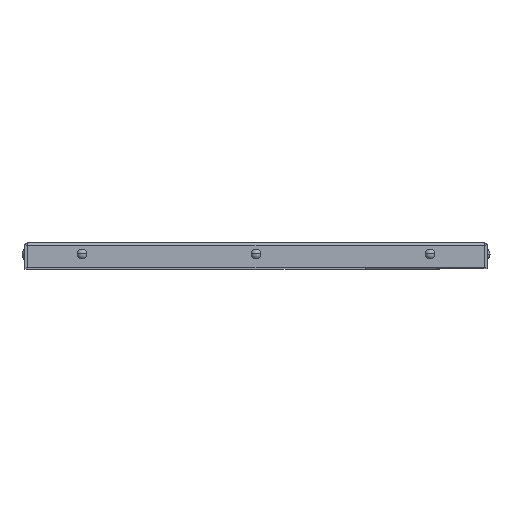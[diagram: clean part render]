
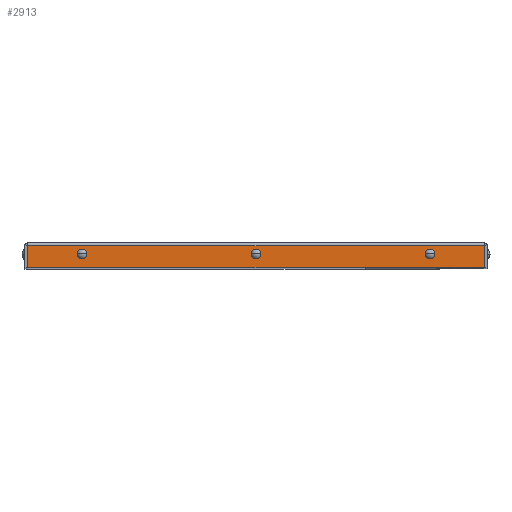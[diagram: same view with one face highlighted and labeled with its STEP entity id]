
A CAD part, top view. The second image highlights one B-rep face of the part: STEP entity #2913.
In plain terms, the highlighted planar face has unit normal (0, 0, 1).
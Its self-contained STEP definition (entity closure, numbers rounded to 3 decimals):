
#712=DIRECTION('',(0.,-1.,0.));
#713=VECTOR('',#712,1.6);
#714=CARTESIAN_POINT('',(0.,-0.2,-2.05));
#715=LINE('',#714,#713);
#716=DIRECTION('',(-1.,0.,0.));
#717=VECTOR('',#716,32.82);
#718=CARTESIAN_POINT('',(32.82,-0.2,-2.05));
#719=LINE('',#718,#717);
#720=DIRECTION('',(0.,1.,0.));
#721=VECTOR('',#720,1.6);
#722=CARTESIAN_POINT('',(32.82,-1.8,-2.05));
#723=LINE('',#722,#721);
#724=DIRECTION('',(1.,0.,0.));
#725=VECTOR('',#724,32.82);
#726=CARTESIAN_POINT('',(0.,-1.8,-2.05));
#727=LINE('',#726,#725);
#728=CARTESIAN_POINT('',(28.91,-0.8,-2.05));
#729=DIRECTION('',(0.,0.,-1.));
#730=DIRECTION('',(-1.,0.,0.));
#731=AXIS2_PLACEMENT_3D('',#728,#729,#730);
#733=CARTESIAN_POINT('',(28.91,-0.8,-2.05));
#734=DIRECTION('',(0.,0.,-1.));
#735=DIRECTION('',(1.,0.,0.));
#736=AXIS2_PLACEMENT_3D('',#733,#734,#735);
#738=CARTESIAN_POINT('',(16.41,-0.8,-2.05));
#739=DIRECTION('',(0.,0.,-1.));
#740=DIRECTION('',(-1.,0.,0.));
#741=AXIS2_PLACEMENT_3D('',#738,#739,#740);
#743=CARTESIAN_POINT('',(16.41,-0.8,-2.05));
#744=DIRECTION('',(0.,0.,-1.));
#745=DIRECTION('',(1.,0.,0.));
#746=AXIS2_PLACEMENT_3D('',#743,#744,#745);
#748=CARTESIAN_POINT('',(3.91,-0.8,-2.05));
#749=DIRECTION('',(0.,0.,-1.));
#750=DIRECTION('',(-1.,0.,0.));
#751=AXIS2_PLACEMENT_3D('',#748,#749,#750);
#753=CARTESIAN_POINT('',(3.91,-0.8,-2.05));
#754=DIRECTION('',(0.,0.,-1.));
#755=DIRECTION('',(1.,0.,0.));
#756=AXIS2_PLACEMENT_3D('',#753,#754,#755);
#1630=CARTESIAN_POINT('',(0.,-0.2,-2.05));
#1631=CARTESIAN_POINT('',(0.,-1.8,-2.05));
#1632=VERTEX_POINT('',#1630);
#1633=VERTEX_POINT('',#1631);
#1634=CARTESIAN_POINT('',(32.82,-1.8,-2.05));
#1635=VERTEX_POINT('',#1634);
#1636=CARTESIAN_POINT('',(32.82,-0.2,-2.05));
#1637=VERTEX_POINT('',#1636);
#1742=CARTESIAN_POINT('',(28.564,-0.8,-2.05));
#1743=CARTESIAN_POINT('',(29.256,-0.8,-2.05));
#1744=VERTEX_POINT('',#1742);
#1745=VERTEX_POINT('',#1743);
#1754=CARTESIAN_POINT('',(16.064,-0.8,-2.05));
#1755=CARTESIAN_POINT('',(16.756,-0.8,-2.05));
#1756=VERTEX_POINT('',#1754);
#1757=VERTEX_POINT('',#1755);
#1766=CARTESIAN_POINT('',(3.564,-0.8,-2.05));
#1767=CARTESIAN_POINT('',(4.256,-0.8,-2.05));
#1768=VERTEX_POINT('',#1766);
#1769=VERTEX_POINT('',#1767);
#2883=CARTESIAN_POINT('',(7.798,-0.2,-2.05));
#2884=DIRECTION('',(0.,0.,1.));
#2885=DIRECTION('',(1.,0.,0.));
#2886=AXIS2_PLACEMENT_3D('',#2883,#2884,#2885);
#2887=PLANE('',#2886);
#2888=ORIENTED_EDGE('',*,*,#2294,.F.);
#2889=ORIENTED_EDGE('',*,*,#2875,.F.);
#2890=ORIENTED_EDGE('',*,*,#2248,.F.);
#2892=ORIENTED_EDGE('',*,*,#2891,.F.);
#2893=EDGE_LOOP('',(#2888,#2889,#2890,#2892));
#2894=FACE_OUTER_BOUND('',#2893,.F.);
#2896=ORIENTED_EDGE('',*,*,#2895,.F.);
#2898=ORIENTED_EDGE('',*,*,#2897,.F.);
#2899=EDGE_LOOP('',(#2896,#2898));
#2900=FACE_BOUND('',#2899,.F.);
#2902=ORIENTED_EDGE('',*,*,#2901,.F.);
#2904=ORIENTED_EDGE('',*,*,#2903,.F.);
#2905=EDGE_LOOP('',(#2902,#2904));
#2906=FACE_BOUND('',#2905,.F.);
#2908=ORIENTED_EDGE('',*,*,#2907,.F.);
#2910=ORIENTED_EDGE('',*,*,#2909,.F.);
#2911=EDGE_LOOP('',(#2908,#2910));
#2912=FACE_BOUND('',#2911,.F.);
#2913=ADVANCED_FACE('',(#2894,#2900,#2906,#2912),#2887,.T.);
#732=CIRCLE('',#731,0.346);
#737=CIRCLE('',#736,0.346);
#742=CIRCLE('',#741,0.346);
#747=CIRCLE('',#746,0.346);
#752=CIRCLE('',#751,0.346);
#757=CIRCLE('',#756,0.346);
#2248=EDGE_CURVE('',#1635,#1637,#723,.T.);
#2294=EDGE_CURVE('',#1632,#1633,#715,.T.);
#2875=EDGE_CURVE('',#1637,#1632,#719,.T.);
#2891=EDGE_CURVE('',#1633,#1635,#727,.T.);
#2895=EDGE_CURVE('',#1744,#1745,#732,.T.);
#2897=EDGE_CURVE('',#1745,#1744,#737,.T.);
#2901=EDGE_CURVE('',#1756,#1757,#742,.T.);
#2903=EDGE_CURVE('',#1757,#1756,#747,.T.);
#2907=EDGE_CURVE('',#1768,#1769,#752,.T.);
#2909=EDGE_CURVE('',#1769,#1768,#757,.T.);
